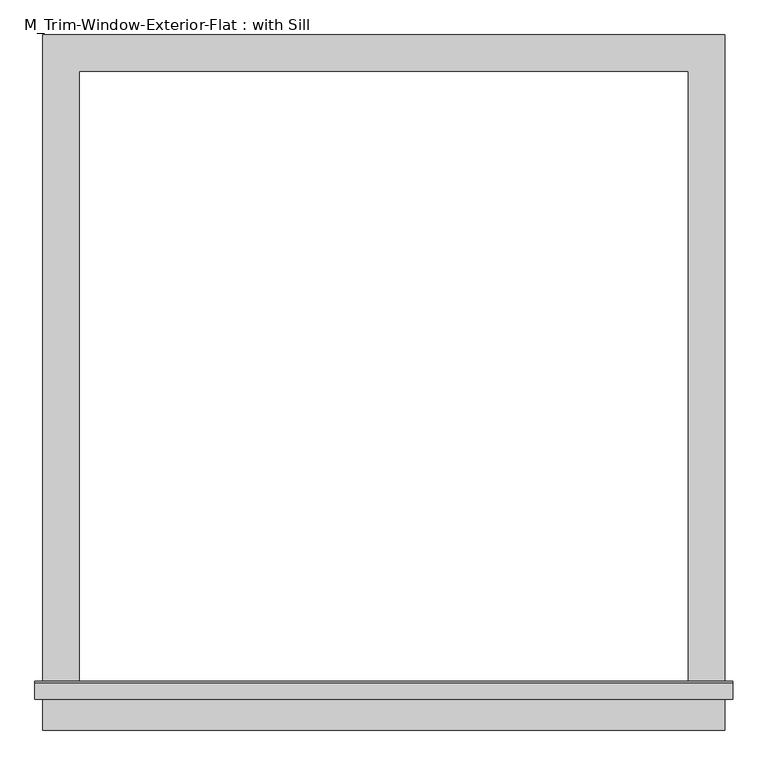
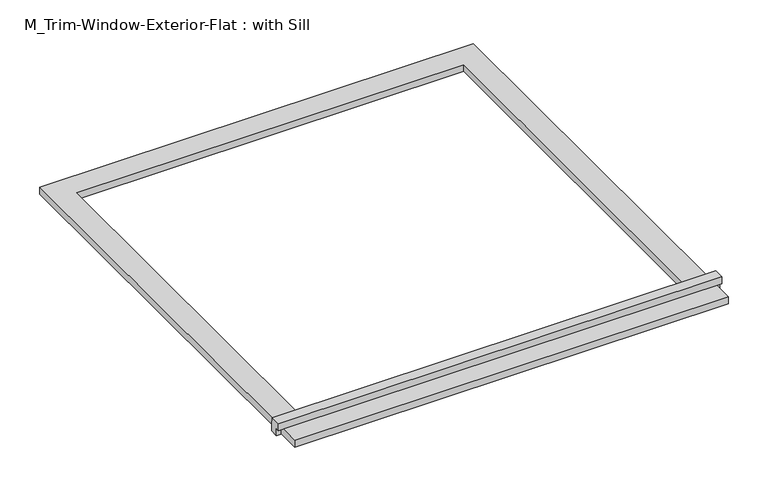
"""IFC4 building model written with IfcOpenShell, lengths in millimetres: proxy geometry, M_Trim-Window-Exterior-Flat : with Sill."""

from ifc_helpers import new_model, si_unit, frame, origin, origin_with_axes, place, context, project, spatial, polyline, outline, extrude, source, transform, mapped, element, save


def m_trim_window_exterior_flat_with_sill_cf2ed956(model_context):
    return source(origin(), model_context, "Body", "SweptSolid", [
        extrude(outline(polyline([(560.0, -1020.4323709), (560.0, -1080.4323709), (-560.0, -1080.4323709), (-560.0, -1020.4323709), (560.0, -1020.4323709)])), origin_with_axes(), (0.0, 0.0, 1.0), 19.05),
        extrude(outline(polyline([(-1030.0, 38.1), (-1002.4580645, 38.1), (-1000.0, 19.05), (-1000.0, 0.0), (-1020.4323709, 0.0), (-1020.4323709, 19.05), (-1030.0, 19.05), (-1030.0, 38.1)])), frame((-572.7, 0.0, 0.0), z_axis=(1.0, 0.0, 0.0), x_axis=(0.0, 1.0, 0.0)), (0.0, 0.0, 1.0), 1145.4),
        extrude(outline(polyline([(-560.0, 60.0), (560.0, 60.0), (560.0, -1000.0), (500.0, -1000.0), (500.0, 0.0), (-500.0, 0.0), (-500.0, -1000.0), (-560.0, -1000.0), (-560.0, 60.0)])), origin_with_axes(), (0.0, 0.0, 1.0), 19.05),
    ])


if __name__ == "__main__":
    model = new_model("IFC4")
    model_context = context("Model", 3, world=origin())
    ifc_project = project(units=[si_unit("LENGTHUNIT", "METRE", prefix="MILLI")], contexts=[model_context])
    site = spatial("IfcSite", under=ifc_project)
    building = spatial("IfcBuilding", under=site)
    placement = place(None, origin())
    m_trim_window_exterior_flat_with_sill_shape = m_trim_window_exterior_flat_with_sill_cf2ed956(model_context)
    element("IfcBuildingElementProxy", 1, Name="M_Trim-Window-Exterior-Flat : with Sill", ObjectType="M_Trim-Window-Exterior-Flat : with Sill", at=placement, inside=building, context=model_context, shape_type="MappedRepresentation", body=[
        mapped(m_trim_window_exterior_flat_with_sill_shape, transform((0.0, 0.0, 0.0), x_axis=(1.0, 0.0, 0.0), y_axis=(0.0, 1.0, 0.0), z_axis=(0.0, 0.0, 1.0))),
    ])
    save(model, "model.ifc")
